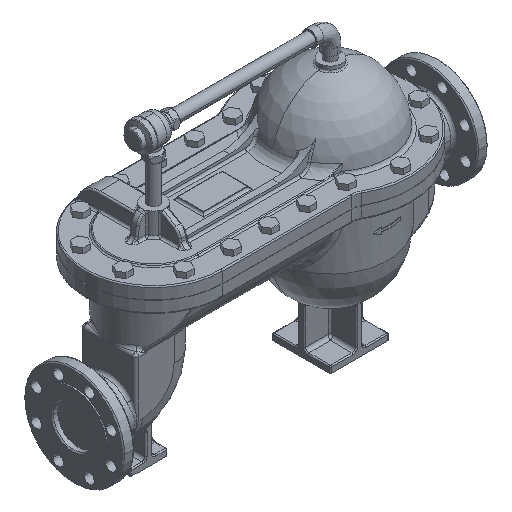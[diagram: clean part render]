
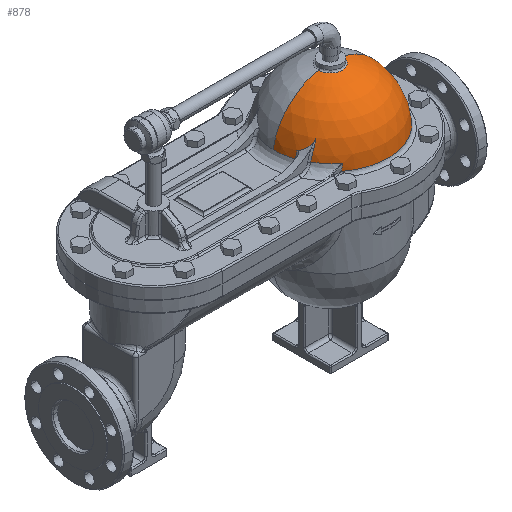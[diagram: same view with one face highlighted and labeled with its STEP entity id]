
A CAD part, isometric view. The second image highlights one B-rep face of the part: STEP entity #878.
In plain terms, the highlighted spherical face has radius 107 mm.
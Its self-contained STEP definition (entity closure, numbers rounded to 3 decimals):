
#878=ADVANCED_FACE('',(#9449),#9448,.T.);
#9448=SPHERICAL_SURFACE('',#21860,107.);
#9449=FACE_OUTER_BOUND('',#21861,.T.);
#21857=CARTESIAN_POINT('',(0.,0.,22.375));
#21858=DIRECTION('',(0.,0.,1.));
#21859=DIRECTION('',(-1.,0.009,0.));
#21860=AXIS2_PLACEMENT_3D('',#21857,#21858,#21859);
#21861=EDGE_LOOP('',(#26840,#26841,#26842,#26843,#26844,#26845,#26846,#26847,#26848,#26849,#26850,#26851,#26852));
#26840=ORIENTED_EDGE('',*,*,#28717,.F.);
#26841=ORIENTED_EDGE('',*,*,#28767,.F.);
#26842=ORIENTED_EDGE('',*,*,#28695,.T.);
#26843=ORIENTED_EDGE('',*,*,#28694,.T.);
#26844=ORIENTED_EDGE('',*,*,#28761,.F.);
#26845=ORIENTED_EDGE('',*,*,#28766,.F.);
#26846=ORIENTED_EDGE('',*,*,#28713,.F.);
#26847=ORIENTED_EDGE('',*,*,#28728,.F.);
#26848=ORIENTED_EDGE('',*,*,#28721,.F.);
#26849=ORIENTED_EDGE('',*,*,#29418,.T.);
#26850=ORIENTED_EDGE('',*,*,#29416,.F.);
#26851=ORIENTED_EDGE('',*,*,#29413,.F.);
#26852=ORIENTED_EDGE('',*,*,#29419,.F.);
#28694=EDGE_CURVE('',#38547,#38548,#38549,.T.);
#28695=EDGE_CURVE('',#38555,#38547,#38556,.T.);
#28713=EDGE_CURVE('',#38674,#38646,#38681,.T.);
#28717=EDGE_CURVE('',#38702,#38709,#38710,.T.);
#28721=EDGE_CURVE('',#38730,#38737,#38738,.T.);
#28728=EDGE_CURVE('',#38737,#38674,#38784,.T.);
#28761=EDGE_CURVE('',#38992,#38548,#38999,.T.);
#28766=EDGE_CURVE('',#38646,#38992,#39031,.T.);
#28767=EDGE_CURVE('',#38555,#38702,#39037,.T.);
#29413=EDGE_CURVE('',#43310,#43317,#43318,.T.);
#29416=EDGE_CURVE('',#43317,#43336,#43337,.T.);
#29418=EDGE_CURVE('',#38730,#43336,#43349,.T.);
#29419=EDGE_CURVE('',#38709,#43310,#43355,.T.);
#38547=VERTEX_POINT('',#50668);
#38548=VERTEX_POINT('',#50669);
#38549=(BOUNDED_CURVE() B_SPLINE_CURVE(3,(#50670,#50671,#50672,#50673,#50674,#50675,#50676,#50677,#50678,#50679,#50680,#50681,#50682,#50683),.UNSPECIFIED.,.F.,.F.) B_SPLINE_CURVE_WITH_KNOTS((4,2,2,2,2,2,4),(1.126,1.152,1.728,2.304,2.974,3.309,3.644),.UNSPECIFIED.) CURVE() GEOMETRIC_REPRESENTATION_ITEM() RATIONAL_B_SPLINE_CURVE((1.,1.,1.,1.,1.,1.,1.,1.,1.,1.,1.,1.,1.,1.)) REPRESENTATION_ITEM('') );
#38555=VERTEX_POINT('',#50684);
#38556=(BOUNDED_CURVE() B_SPLINE_CURVE(3,(#50685,#50686,#50687,#50688,#50689,#50690),.UNSPECIFIED.,.F.,.F.) B_SPLINE_CURVE_WITH_KNOTS((4,2,4),(5.045,5.344,5.69),.UNSPECIFIED.) CURVE() GEOMETRIC_REPRESENTATION_ITEM() RATIONAL_B_SPLINE_CURVE((1.,1.,1.,1.,1.,1.)) REPRESENTATION_ITEM('') );
#38646=VERTEX_POINT('',#50781);
#38674=VERTEX_POINT('',#50804);
#38681=CIRCLE('',#50816,105.479);
#38702=VERTEX_POINT('',#50830);
#38709=VERTEX_POINT('',#50838);
#38710=CIRCLE('',#50842,105.479);
#38730=VERTEX_POINT('',#50859);
#38737=VERTEX_POINT('',#50864);
#38738=CIRCLE('',#50868,106.849);
#38784=CIRCLE('',#50920,64.767);
#38992=VERTEX_POINT('',#51073);
#38999=(BOUNDED_CURVE() B_SPLINE_CURVE(3,(#51078,#51079,#51080,#51081,#51082,#51083),.UNSPECIFIED.,.F.,.F.) B_SPLINE_CURVE_WITH_KNOTS((4,2,4),(-1.447,0.,0.003),.UNSPECIFIED.) CURVE() GEOMETRIC_REPRESENTATION_ITEM() RATIONAL_B_SPLINE_CURVE((1.,1.,1.,1.,1.,1.)) REPRESENTATION_ITEM('') );
#39031=CIRCLE('',#51107,92.385);
#39037=CIRCLE('',#51111,101.216);
#43310=VERTEX_POINT('',#54119);
#43317=VERTEX_POINT('',#54124);
#43318=CIRCLE('',#54128,22.373);
#43336=VERTEX_POINT('',#54135);
#43337=CIRCLE('',#54139,22.373);
#43349=(BOUNDED_CURVE() B_SPLINE_CURVE(2,(#54144,#54145,#54146),.UNSPECIFIED.,.F.,.F.) B_SPLINE_CURVE_WITH_KNOTS((3,3),(0.,1.),.UNSPECIFIED.) CURVE() GEOMETRIC_REPRESENTATION_ITEM() RATIONAL_B_SPLINE_CURVE((1.,0.794,1.)) REPRESENTATION_ITEM('') );
#43355=(BOUNDED_CURVE() B_SPLINE_CURVE(2,(#54147,#54148,#54149),.UNSPECIFIED.,.F.,.F.) B_SPLINE_CURVE_WITH_KNOTS((3,3),(0.093,1.),.UNSPECIFIED.) CURVE() GEOMETRIC_REPRESENTATION_ITEM() RATIONAL_B_SPLINE_CURVE((0.724,0.61,0.75)) REPRESENTATION_ITEM('') );
#50668=CARTESIAN_POINT('',(-93.828,-40.,54.707));
#50669=CARTESIAN_POINT('',(-79.288,-52.,71.958));
#50670=CARTESIAN_POINT('',(-93.828,-40.,54.707));
#50671=CARTESIAN_POINT('',(-93.784,-40.071,54.746));
#50672=CARTESIAN_POINT('',(-93.74,-40.142,54.785));
#50673=CARTESIAN_POINT('',(-92.708,-41.799,55.711));
#50674=CARTESIAN_POINT('',(-91.66,-43.285,56.696));
#50675=CARTESIAN_POINT('',(-89.507,-45.95,58.846));
#50676=CARTESIAN_POINT('',(-88.403,-47.128,60.011));
#50677=CARTESIAN_POINT('',(-86.039,-49.268,62.672));
#50678=CARTESIAN_POINT('',(-84.621,-50.297,64.379));
#50679=CARTESIAN_POINT('',(-82.532,-51.323,67.15));
#50680=CARTESIAN_POINT('',(-81.842,-51.582,68.108));
#50681=CARTESIAN_POINT('',(-80.516,-51.921,70.039));
#50682=CARTESIAN_POINT('',(-79.88,-52.,71.011));
#50683=CARTESIAN_POINT('',(-79.288,-52.,71.958));
#50684=CARTESIAN_POINT('',(-96.705,-34.703,52.257));
#50685=CARTESIAN_POINT('',(-96.705,-34.703,52.257));
#50686=CARTESIAN_POINT('',(-96.292,-35.564,52.592));
#50687=CARTESIAN_POINT('',(-95.864,-36.407,52.946));
#50688=CARTESIAN_POINT('',(-94.909,-38.182,53.755));
#50689=CARTESIAN_POINT('',(-94.377,-39.107,54.216));
#50690=CARTESIAN_POINT('',(-93.828,-40.,54.707));
#50781=CARTESIAN_POINT('',(-90.619,-53.982,40.351));
#50804=CARTESIAN_POINT('',(-62.222,-85.172,40.351));
#50813=CARTESIAN_POINT('',(0.,0.,40.351));
#50814=DIRECTION('',(0.,0.,-1.));
#50815=DIRECTION('',(0.59,0.807,0.));
#50816=AXIS2_PLACEMENT_3D('',#50813,#50814,#50815);
#50830=CARTESIAN_POINT('',(-99.607,-34.703,40.351));
#50838=CARTESIAN_POINT('',(-105.475,0.92,40.351));
#50839=CARTESIAN_POINT('',(0.,0.,40.351));
#50840=DIRECTION('',(0.,0.,-1.));
#50841=DIRECTION('',(0.944,0.329,0.));
#50842=AXIS2_PLACEMENT_3D('',#50839,#50840,#50841);
#50859=CARTESIAN_POINT('',(106.845,-0.932,28.056));
#50864=CARTESIAN_POINT('',(-64.517,-85.172,28.056));
#50865=CARTESIAN_POINT('',(0.,0.,28.056));
#50866=DIRECTION('',(0.,0.,-1.));
#50867=DIRECTION('',(-0.604,0.797,0.));
#50868=AXIS2_PLACEMENT_3D('',#50865,#50866,#50867);
#50917=CARTESIAN_POINT('',(0.,-85.172,22.375));
#50918=DIRECTION('',(0.,1.,0.));
#50919=DIRECTION('',(0.996,0.,-0.088));
#50920=AXIS2_PLACEMENT_3D('',#50917,#50918,#50919);
#51073=CARTESIAN_POINT('',(-84.718,-53.982,59.224));
#51078=CARTESIAN_POINT('',(-84.718,-53.982,59.224));
#51079=CARTESIAN_POINT('',(-82.862,-53.982,63.489));
#51080=CARTESIAN_POINT('',(-81.133,-53.141,67.809));
#51081=CARTESIAN_POINT('',(-79.296,-52.005,71.94));
#51082=CARTESIAN_POINT('',(-79.292,-52.003,71.949));
#51083=CARTESIAN_POINT('',(-79.288,-52.,71.958));
#51104=CARTESIAN_POINT('',(0.,-53.982,22.375));
#51105=DIRECTION('',(0.,1.,0.));
#51106=DIRECTION('',(0.981,0.,-0.195));
#51107=AXIS2_PLACEMENT_3D('',#51104,#51105,#51106);
#51108=CARTESIAN_POINT('',(0.,-34.703,22.375));
#51109=DIRECTION('',(0.,-1.,0.));
#51110=DIRECTION('',(0.955,0.,-0.295));
#51111=AXIS2_PLACEMENT_3D('',#51108,#51109,#51110);
#54119=CARTESIAN_POINT('',(-22.372,0.195,127.01));
#54124=CARTESIAN_POINT('',(-22.373,0.,127.01));
#54125=CARTESIAN_POINT('',(0.,0.,127.01));
#54126=DIRECTION('',(0.,0.,1.));
#54127=DIRECTION('',(1.,0.,0.));
#54128=AXIS2_PLACEMENT_3D('',#54125,#54126,#54127);
#54135=CARTESIAN_POINT('',(22.372,-0.195,127.01));
#54136=CARTESIAN_POINT('',(0.,0.,127.01));
#54137=DIRECTION('',(0.,0.,1.));
#54138=DIRECTION('',(1.,0.,0.));
#54139=AXIS2_PLACEMENT_3D('',#54136,#54137,#54138);
#54144=CARTESIAN_POINT('',(106.845,-0.932,28.056));
#54145=CARTESIAN_POINT('',(102.495,-0.894,109.878));
#54146=CARTESIAN_POINT('',(22.372,-0.195,127.01));
#54147=CARTESIAN_POINT('',(-105.475,0.92,40.351));
#54148=CARTESIAN_POINT('',(-93.291,0.814,111.846));
#54149=CARTESIAN_POINT('',(-22.372,0.195,127.01));
